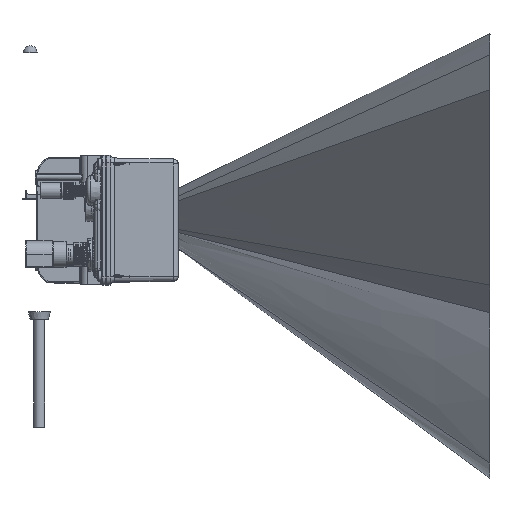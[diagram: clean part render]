
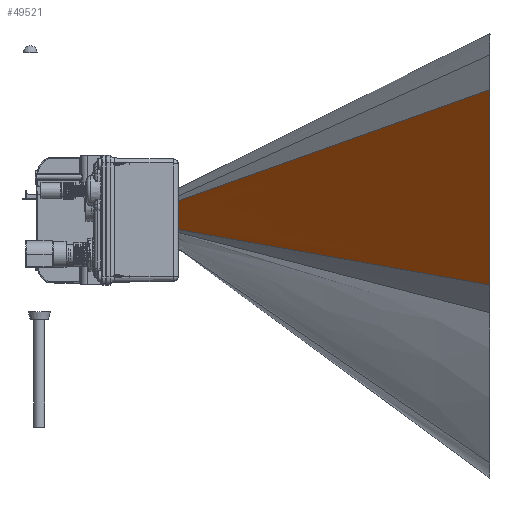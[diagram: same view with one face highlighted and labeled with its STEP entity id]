
A CAD part, top view. The second image highlights one B-rep face of the part: STEP entity #49521.
In plain terms, the highlighted free-form (B-spline) face has degree [3, 3] with [4, 4] control points.
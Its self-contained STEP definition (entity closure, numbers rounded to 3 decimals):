
#693=B_SPLINE_SURFACE_WITH_KNOTS('',3,3,((#155298,#155299,#155300,#155301),
(#155302,#155303,#155304,#155305),(#155306,#155307,#155308,#155309),(#155310,
#155311,#155312,#155313)),.UNSPECIFIED.,.F.,.F.,.F.,(4,4),(4,4),(0.,1.),
(0.,1.),.UNSPECIFIED.);
#7428=FACE_OUTER_BOUND('',#10370,.T.);
#10370=EDGE_LOOP('',(#43297,#43298,#43299,#43300));
#12514=LINE('',#155227,#14666);
#12521=LINE('',#155275,#14673);
#12522=LINE('',#155297,#14674);
#12523=LINE('',#155314,#14675);
#14666=VECTOR('',#67202,10.);
#14673=VECTOR('',#67225,10.);
#14674=VECTOR('',#67226,319.208);
#14675=VECTOR('',#67227,310.906);
#21898=VERTEX_POINT('',#155224);
#21899=VERTEX_POINT('',#155226);
#21914=VERTEX_POINT('',#155272);
#21915=VERTEX_POINT('',#155274);
#29027=EDGE_CURVE('',#21898,#21899,#12514,.T.);
#29044=EDGE_CURVE('',#21915,#21914,#12521,.T.);
#29046=EDGE_CURVE('',#21915,#21898,#12522,.T.);
#29047=EDGE_CURVE('',#21914,#21899,#12523,.T.);
#43297=ORIENTED_EDGE('',*,*,#29044,.T.);
#43298=ORIENTED_EDGE('',*,*,#29047,.T.);
#43299=ORIENTED_EDGE('',*,*,#29027,.F.);
#43300=ORIENTED_EDGE('',*,*,#29046,.F.);
#49521=ADVANCED_FACE('',(#7428),#693,.T.);
#67202=DIRECTION('',(0.,-0.999,-0.035));
#67225=DIRECTION('',(0.,-1.,-0.013));
#67226=DIRECTION('',(0.595,0.211,0.775));
#67227=DIRECTION('',(0.611,-0.11,0.784));
#155224=CARTESIAN_POINT('',(200.,75.,269.));
#155226=CARTESIAN_POINT('',(200.,-38.,265.054));
#155227=CARTESIAN_POINT('',(200.,75.,269.));
#155272=CARTESIAN_POINT('',(10.,-3.781,21.351));
#155274=CARTESIAN_POINT('',(10.,7.639,21.5));
#155275=CARTESIAN_POINT('',(10.,7.639,21.5));
#155297=CARTESIAN_POINT('',(10.,7.639,21.5));
#155298=CARTESIAN_POINT('Ctrl Pts',(10.,7.639,21.5));
#155299=CARTESIAN_POINT('Ctrl Pts',(73.333,30.093,104.));
#155300=CARTESIAN_POINT('Ctrl Pts',(136.667,52.546,186.5));
#155301=CARTESIAN_POINT('Ctrl Pts',(200.,75.,269.));
#155302=CARTESIAN_POINT('Ctrl Pts',(10.,3.832,21.45));
#155303=CARTESIAN_POINT('Ctrl Pts',(73.333,14.999,103.528));
#155304=CARTESIAN_POINT('Ctrl Pts',(136.667,26.166,185.606));
#155305=CARTESIAN_POINT('Ctrl Pts',(200.,37.333,267.685));
#155306=CARTESIAN_POINT('Ctrl Pts',(10.,0.026,21.4));
#155307=CARTESIAN_POINT('Ctrl Pts',(73.333,-0.094,
103.057));
#155308=CARTESIAN_POINT('Ctrl Pts',(136.667,-0.214,
184.713));
#155309=CARTESIAN_POINT('Ctrl Pts',(200.,-0.333,266.369));
#155310=CARTESIAN_POINT('Ctrl Pts',(10.,-3.781,21.351));
#155311=CARTESIAN_POINT('Ctrl Pts',(73.333,-15.187,
102.585));
#155312=CARTESIAN_POINT('Ctrl Pts',(136.667,-26.594,
183.819));
#155313=CARTESIAN_POINT('Ctrl Pts',(200.,-38.,265.054));
#155314=CARTESIAN_POINT('',(10.,-3.781,21.351));
